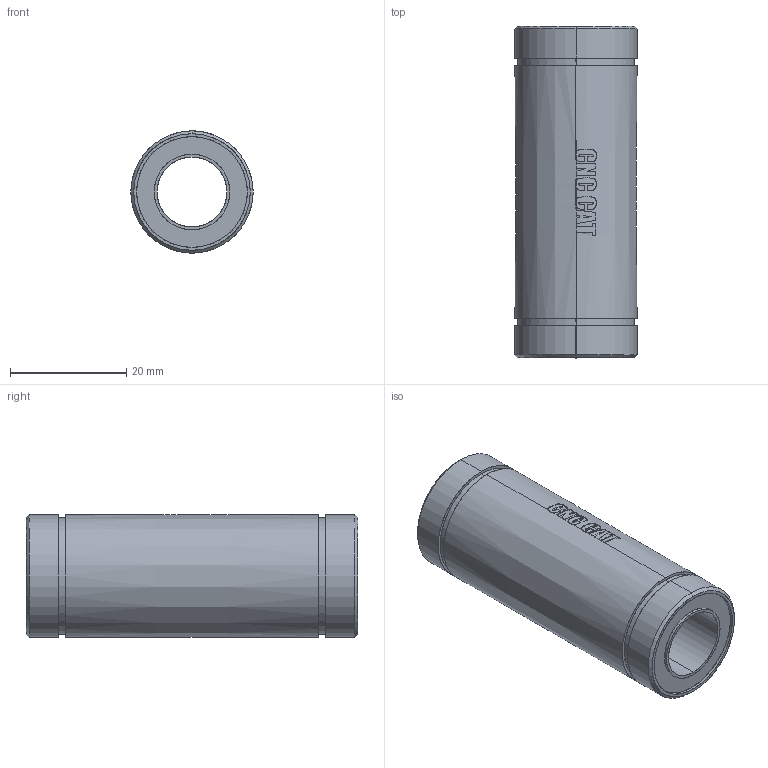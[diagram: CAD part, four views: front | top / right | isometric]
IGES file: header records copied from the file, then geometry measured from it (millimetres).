
Start section: SolidWorks IGES file using analytic representation for surfaces
Global section: file name: D:\SOLIDWORKS PROEKTI\freelance cnc cat\NOV TERK\LM12LUU.IGS; native system: SolidWorks 2016; preprocessor: SolidWorks 2016; author: User; date: 170805.141113; units: millimetre
Bounding box: 21 x 57 x 21 mm (x, y, z)
Surface area: 6566.5 mm2 (no closed solid volume)
Topology: 0 solids, 0 shells, 123 faces, 2209 edges, 2531 vertices
Faces by surface type: bspline 87, revolution 36
